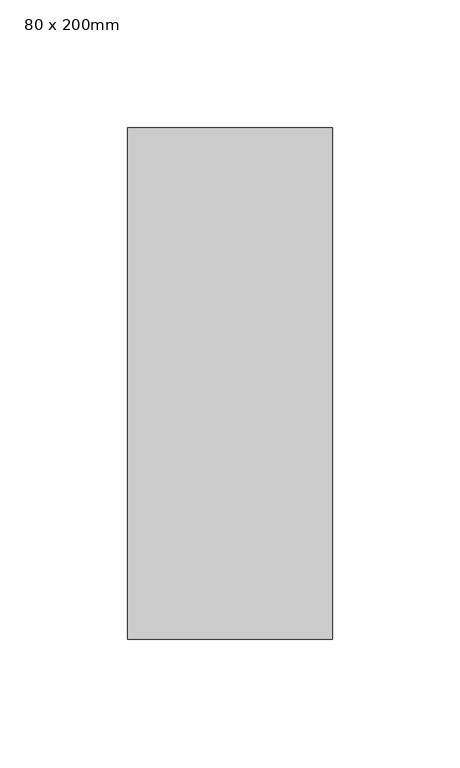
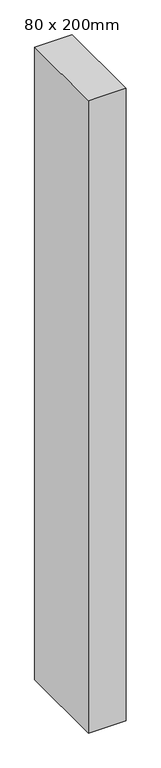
"""IFC4 building model written with IfcOpenShell, lengths in millimetres: member geometry, 矩形竖梃 : 80 x 200mm."""

import ifcopenshell
import ifcopenshell.guid

model = None  # the IFC model being written
_history = None  # IfcOwnerHistory: only IFC2X3 demands one
_inside = {}  # id of a spatial element -> (the spatial element, [elements in it])
_under = {}  # id of a project, library or spatial element -> (it, [spatial elements below it])
_declared = {}  # id of a project -> (the project, [libraries it declares])
_typed = {}  # id of a type object -> (the type object, [elements of that type])
_made_of = {}  # id of a material, layer set ... -> (it, [elements and type objects made of it])


def new_model(schema):
    """Start an empty IFC model of exactly this schema.

    Asked for "IFC4X3", IfcOpenShell would pick the latest addendum, in which some entities
    have other attributes; the version numbers below select the first issue.
    IFC2X3 requires an IfcOwnerHistory on every rooted entity: one is made here for all.
    """
    global model, _history
    if schema == "IFC4X3":
        model = ifcopenshell.file(schema_version=(4, 3, 0, 0))
    else:
        model = ifcopenshell.file(schema=schema)
    _inside.clear()
    _under.clear()
    _declared.clear()
    _typed.clear()
    _made_of.clear()
    _history = None
    if model.schema == "IFC2X3":
        org = make("IfcOrganization", Name="unknown")
        user = make(
            "IfcPersonAndOrganization",
            ThePerson=make("IfcPerson", FamilyName="unknown"),
            TheOrganization=org,
        )
        app = make(
            "IfcApplication",
            ApplicationDeveloper=org,
            Version="unknown",
            ApplicationFullName="unknown",
            ApplicationIdentifier="unknown",
        )
        _history = make(
            "IfcOwnerHistory",
            OwningUser=user,
            OwningApplication=app,
            ChangeAction="ADDED",
            CreationDate=0,
        )
    return model


def make(cls, **values):
    """One entity of the class cls with the attributes given. An attribute that is None is left unset."""
    return model.create_entity(
        cls, **{name: value for name, value in values.items() if value is not None}
    )


def rooted(cls, **values):
    """An entity with a GlobalId (a new one), such as an element, a storey or a relation."""
    return make(cls, GlobalId=ifcopenshell.guid.new(), OwnerHistory=_history, **values)


def si_unit(unit_type, name, prefix=None):
    """IfcSIUnit, for example si_unit("LENGTHUNIT", "METRE", prefix="MILLI")."""
    return make("IfcSIUnit", UnitType=unit_type, Prefix=prefix, Name=name)


def assignment(units):
    """IfcUnitAssignment: the units of a project."""
    return None if units is None else make("IfcUnitAssignment", Units=units)


def point(xyz):
    """IfcCartesianPoint."""
    return None if xyz is None else make("IfcCartesianPoint", Coordinates=xyz)


def direction(xyz):
    """IfcDirection."""
    return None if xyz is None else make("IfcDirection", DirectionRatios=xyz)


def frame(location, z_axis=None, x_axis=None):
    """IfcAxis2Placement3D, a coordinate frame: its origin and axes. An axis left out is left unset."""
    return make(
        "IfcAxis2Placement3D",
        Location=point(location),
        Axis=direction(z_axis),
        RefDirection=direction(x_axis),
    )


def origin():
    """The frame at (0, 0, 0) with its axes left unset."""
    return frame((0.0, 0.0, 0.0))


def place(relative_to, where):
    """IfcLocalPlacement: puts the frame where relative to a parent placement (None: the world)."""
    return make(
        "IfcLocalPlacement", PlacementRelTo=relative_to, RelativePlacement=where
    )


def context(
    kind, dimensions, precision=None, world=None, true_north=None, identifier=None
):
    """IfcGeometricRepresentationContext, for example the 3D "Model" context."""
    return make(
        "IfcGeometricRepresentationContext",
        ContextIdentifier=identifier,
        ContextType=kind,
        CoordinateSpaceDimension=dimensions,
        Precision=precision,
        WorldCoordinateSystem=world,
        TrueNorth=true_north,
    )


def project(units=None, contexts=None):
    """IfcProject with its units and contexts."""
    return rooted(
        "IfcProject",
        Name="project",
        RepresentationContexts=contexts,
        UnitsInContext=assignment(units),
    )


def spatial(cls, under=None, at=None, **own):
    """A site, building, storey or space (cls), placed at a placement, below another one or the project."""
    s = rooted(cls, ObjectPlacement=at, **own)
    if under is not None:
        _under.setdefault(under.id(), (under, []))[1].append(s)
    return s


def polyline(points):
    """IfcPolyline through the points."""
    return make("IfcPolyline", Points=[point(p) for p in points])


def outline(outer, holes=None, kind="AREA"):
    """IfcArbitraryClosedProfileDef: a profile drawn as a closed curve; with holes, ...WithVoids."""
    if holes is None:
        return make("IfcArbitraryClosedProfileDef", ProfileType=kind, OuterCurve=outer)
    return make(
        "IfcArbitraryProfileDefWithVoids",
        ProfileType=kind,
        OuterCurve=outer,
        InnerCurves=holes,
    )


def extrude(swept, where, along, depth):
    """IfcExtrudedAreaSolid: the profile swept, set in the frame where, extruded along a direction by depth."""
    return make(
        "IfcExtrudedAreaSolid",
        SweptArea=swept,
        Position=where,
        ExtrudedDirection=direction(along),
        Depth=depth,
    )


def shape(context_of_items, identifier, shape_type, items):
    """IfcShapeRepresentation: the items that make up one representation, for example the "Body"."""
    return make(
        "IfcShapeRepresentation",
        ContextOfItems=context_of_items,
        RepresentationIdentifier=identifier,
        RepresentationType=shape_type,
        Items=items,
    )


def source(mapping_origin, context_of_items, identifier, shape_type, items):
    """IfcRepresentationMap: a shape defined once, which mapped items show again and again."""
    return make(
        "IfcRepresentationMap",
        MappingOrigin=mapping_origin,
        MappedRepresentation=shape(context_of_items, identifier, shape_type, items),
    )


def transform(
    local_origin,
    x_axis=None,
    y_axis=None,
    z_axis=None,
    scale=None,
    scale2=None,
    scale3=None,
    uniform=True,
):
    """IfcCartesianTransformationOperator3D, or its non-uniform kind. x_axis, y_axis, z_axis: its Axis1, 2, 3."""
    if uniform:
        return make(
            "IfcCartesianTransformationOperator3D",
            Axis1=direction(x_axis),
            Axis2=direction(y_axis),
            LocalOrigin=point(local_origin),
            Scale=scale,
            Axis3=direction(z_axis),
        )
    return make(
        "IfcCartesianTransformationOperator3DnonUniform",
        Axis1=direction(x_axis),
        Axis2=direction(y_axis),
        LocalOrigin=point(local_origin),
        Scale=scale,
        Axis3=direction(z_axis),
        Scale2=scale2,
        Scale3=scale3,
    )


def mapped(mapping_source, mapping_target):
    """IfcMappedItem: shows the shape of a source again, moved by a transform."""
    return make(
        "IfcMappedItem", MappingSource=mapping_source, MappingTarget=mapping_target
    )


def made_of(thing, what):
    """Note that an element or type object is made of a material, layer set ...; save() writes the relation."""
    if what is not None:
        _made_of.setdefault(what.id(), (what, []))[1].append(thing)
    return thing


def element(
    cls,
    number,
    at=None,
    inside=None,
    cuts=None,
    type_object=None,
    material=None,
    context=None,
    identifier="Body",
    shape_type=None,
    held_by="IfcProductDefinitionShape",
    body=None,
    shapes=None,
    **own,
):
    """One element of the class cls, such as IfcWall. Its Tag is "e" and its number.

    at: its placement. inside: the storey or other place that contains it. cuts: it is an
    opening in that element (IfcRelVoidsElement). A single representation is given by context,
    identifier, shape_type and body (its items); several are given by shapes. held_by: the class
    of the entity that holds the representations. save() writes the other relations.
    """
    e = rooted(cls, Tag="e%d" % number, ObjectPlacement=at, **own)
    if body is not None:
        shapes = [shape(context, identifier, shape_type, body)]
    if shapes is not None:
        e.Representation = make(held_by, Representations=shapes)
    if inside is not None:
        _inside.setdefault(inside.id(), (inside, []))[1].append(e)
    if cuts is not None:
        rooted(
            "IfcRelVoidsElement", RelatingBuildingElement=cuts, RelatedOpeningElement=e
        )
    if type_object is not None:
        _typed.setdefault(type_object.id(), (type_object, []))[1].append(e)
    return made_of(e, material)


def aggregate(whole, parts):
    """IfcRelAggregates: a whole, such as a stair, and the parts it consists of."""
    return rooted("IfcRelAggregates", RelatingObject=whole, RelatedObjects=parts)


def save(model, path):
    """Write the relations noted so far, then the file.

    IfcRelAggregates (storeys below a building ...), IfcRelContainedInSpatialStructure (elements
    in a storey), IfcRelDefinesByType, IfcRelAssociatesMaterial and IfcRelDeclares: one each for
    every whole, place, type object, material and project.
    """
    for whole, parts in _under.values():
        aggregate(whole, parts)
    for where, things in _inside.values():
        rooted(
            "IfcRelContainedInSpatialStructure",
            RelatedElements=things,
            RelatingStructure=where,
        )
    for kind, things in _typed.values():
        rooted("IfcRelDefinesByType", RelatedObjects=things, RelatingType=kind)
    for what, things in _made_of.values():
        rooted("IfcRelAssociatesMaterial", RelatedObjects=things, RelatingMaterial=what)
    for by, libraries in _declared.values():
        rooted("IfcRelDeclares", RelatingContext=by, RelatedDefinitions=libraries)
    model.write(path)


def member_80_x_200mm_fd89d385(model_context):
    return source(origin(), model_context, "Body", "SweptSolid", [
        extrude(outline(polyline([(40.0, 100.0), (40.0, -100.0), (-40.0, -100.0), (-40.0, 100.0), (40.0, 100.0)])), frame((0.0, 0.0, -1431.5857549), z_axis=(0.0, 0.0, 1.0), x_axis=(1.0, 0.0, 0.0)), (0.0, 0.0, 1.0), 1431.5857549),
    ])


if __name__ == "__main__":
    model = new_model("IFC4")
    model_context = context("Model", 3, world=origin())
    ifc_project = project(units=[si_unit("LENGTHUNIT", "METRE", prefix="MILLI")], contexts=[model_context])
    site = spatial("IfcSite", under=ifc_project)
    building = spatial("IfcBuilding", under=site)
    placement = place(None, origin())
    member_80_x_200mm_shape = member_80_x_200mm_fd89d385(model_context)
    element("IfcMember", 1, ObjectType="矩形竖梃 : 80 x 200mm", at=placement, inside=building, context=model_context, shape_type="MappedRepresentation", body=[
        mapped(member_80_x_200mm_shape, transform((0.0, 0.0, 0.0), x_axis=(1.0, 0.0, 0.0), y_axis=(0.0, 1.0, 0.0), z_axis=(0.0, 0.0, 1.0))),
    ])
    save(model, "model.ifc")
